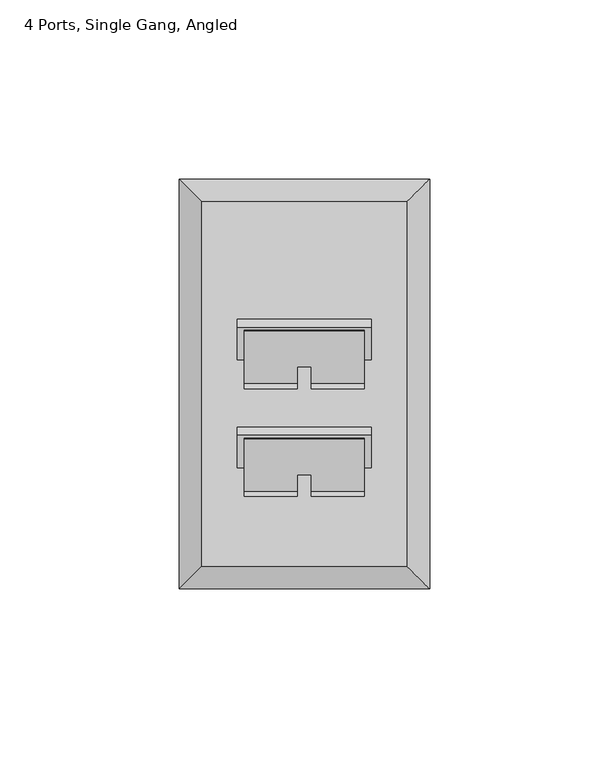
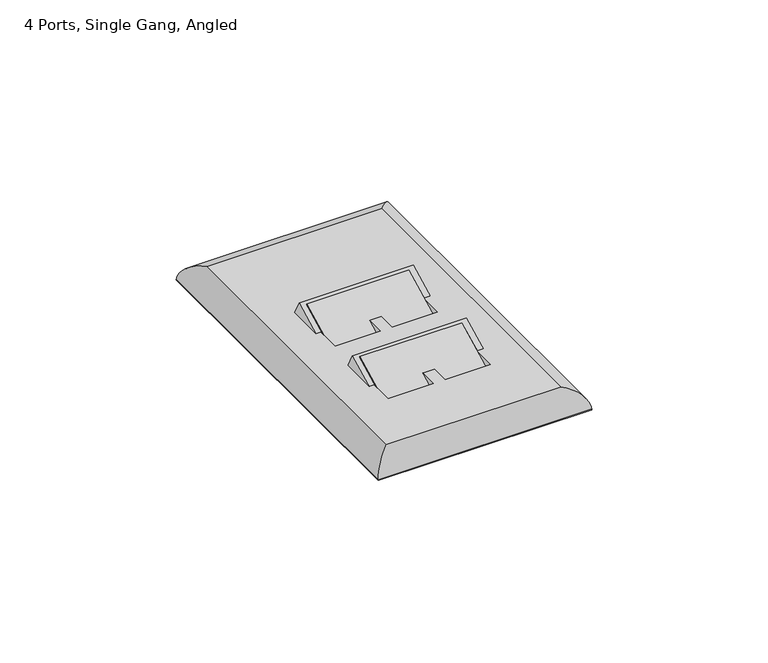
"""IFC4 building model written with IfcOpenShell, lengths in millimetres: electric appliance geometry, Data_Device-Work_Area-Leviton-QuickPort-Wallplate : 4 Ports, Single Gang, Angled."""

from ifc_helpers import new_model, si_unit, frame, origin, origin_with_axes, place, context, project, spatial, polyline, ellipse_curve, outline, extrude, faceted_brep, source, transform, mapped, element, save
from ifc_brep_helpers import plane_surface, cylinder_surface, advanced_brep


def electric_appliance_4_ports_single_gang_angled_b37532bb(model_context):
    return source(origin(), model_context, "Body", "SolidModel", [
        extrude(outline(polyline([(0.0, -16.51), (0.0, 0.0), (33.401, 0.0), (33.401, -16.51), (0.0, -16.51)])), frame((-6.3246, -18.8557048, -2.12579), z_axis=(0.0, -0.4558553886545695, 0.8900538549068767), x_axis=(-1.0, 0.0, 0.0)), (0.0, 0.0, 1.0), 6.35),
        extrude(outline(polyline([(0.0, -16.51), (0.0, 0.0), (33.401, 0.0), (33.401, -16.51), (0.0, -16.51)])), frame((-6.3246, 11.2505157, -2.12579), z_axis=(0.0, -0.4558553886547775, 0.8900538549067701), x_axis=(-1.0, 0.0, 0.0)), (0.0, 0.0, 1.0), 6.35),
        advanced_brep(
        [(5.5499, -42.6085, 6.35), (5.5499, 58.9915, 6.35), (-51.6001, 58.9915, 6.35), (-51.6001, -42.6085, 6.35), (-6.3246, -4.6472775, 6.35), (-6.3246, -23.1967169, 6.35), (-21.0566, -23.1967169, 6.35), (-21.0566, -4.6472775, 6.35), (-24.9936, -4.6472775, 6.35), (-24.9936, -23.1967169, 6.35), (-39.7256, -23.1967169, 6.35), (-39.7256, -4.6472775, 6.35), (-6.3246, 25.458943, 6.35), (-6.3246, 6.9095036, 6.35), (-21.0566, 6.9095036, 6.35), (-21.0566, 25.458943, 6.35), (-24.9936, 25.458943, 6.35), (-24.9936, 6.9095036, 6.35), (-39.7256, 6.9095036, 6.35), (-39.7256, 25.458943, 6.35), (11.8999, 65.3415, 0.0), (11.8999, -48.9585, 0.0), (-57.9501, -48.9585, 0.0), (-57.9501, 65.3415, 0.0), (-6.3246, -19.9444623, 0.0), (-6.3246, -1.3950229, 0.0), (-21.0566, -1.3950229, 0.0), (-21.0566, -19.9444623, 0.0), (-24.9936, -19.9444623, 0.0), (-24.9936, -1.3950229, 0.0), (-39.7256, -1.3950229, 0.0), (-39.7256, -19.9444623, 0.0), (-6.3246, 10.1617582, 0.0), (-6.3246, 28.7111975, 0.0), (-21.0566, 28.7111975, 0.0), (-21.0566, 10.1617582, 0.0), (-24.9936, 10.1617582, 0.0), (-24.9936, 28.7111975, 0.0), (-39.7256, 28.7111975, 0.0), (-39.7256, 10.1617582, 0.0), (-57.9501, 65.3415, 0.254), (11.8999, 65.3415, 0.254), (-57.9501, -48.9585, 0.254), (11.8999, -48.9585, 0.254)],
        [
            (0, 1),
            (1, 2),
            (2, 3),
            (3, 0),
            (4, 5),
            (5, 6),
            (6, 7),
            (7, 4),
            (8, 9),
            (9, 10),
            (10, 11),
            (11, 8),
            (12, 13),
            (13, 14),
            (14, 15),
            (15, 12),
            (16, 17),
            (17, 18),
            (18, 19),
            (19, 16),
            (20, 21),
            (21, 22),
            (22, 23),
            (23, 20),
            (24, 25),
            (25, 26),
            (26, 27),
            (27, 24),
            (28, 29),
            (29, 30),
            (30, 31),
            (31, 28),
            (32, 33),
            (33, 34),
            (34, 35),
            (35, 32),
            (36, 37),
            (37, 38),
            (38, 39),
            (39, 36),
            (23, 40),
            (40, 41),
            (41, 20),
            (22, 42),
            (42, 40),
            (21, 43),
            (43, 42),
            (41, 43),
            (4, 25),
            (24, 5),
            (27, 6),
            (26, 7),
            (8, 29),
            (28, 9),
            (31, 10),
            (30, 11),
            (12, 33),
            (32, 13),
            (35, 14),
            (34, 15),
            (16, 37),
            (36, 17),
            (39, 18),
            (38, 19),
            (0, 43, ellipse_curve(frame((5.5499, -42.6085, -0.0052917), z_axis=(0.7071067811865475, 0.7071067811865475, 0.0), x_axis=(0.7071067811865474, -0.7071067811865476, 0.0)), 8.9877397, 6.3552917)),
            (41, 1, ellipse_curve(frame((5.5499, 58.9915, -0.0052917), z_axis=(0.7071067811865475, -0.7071067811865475, 0.0), x_axis=(-0.7071067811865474, -0.7071067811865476, 0.0)), 8.9877397, 6.3552917)),
            (3, 42, ellipse_curve(frame((-51.6001, -42.6085, -0.0052917), z_axis=(0.7071067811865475, -0.7071067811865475, 0.0), x_axis=(-0.7071067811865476, -0.7071067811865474, 0.0)), 8.9877397, 6.3552917)),
            (2, 40, ellipse_curve(frame((-51.6001, 58.9915, -0.0052917), z_axis=(-0.7071067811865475, -0.7071067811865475, 0.0), x_axis=(-0.7071067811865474, 0.7071067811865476, 0.0)), 8.9877397, 6.3552917)),
        ],
        [
            plane_surface(frame((-57.9501, 65.3415, 6.35), z_axis=(0.0, 0.0, 1.0), x_axis=(-1.0, 0.0, 0.0))),
            plane_surface(frame((-57.9501, 65.3415, 0.0), z_axis=(0.0, 0.0, -1.0), x_axis=(1.0, 0.0, 0.0))),
            plane_surface(frame((11.8999, 65.3415, 6.35), z_axis=(0.0, 1.0, 0.0), x_axis=(0.0, 0.0, -1.0))),
            plane_surface(frame((-57.9501, 65.3415, 6.35), z_axis=(-1.0, 0.0, 0.0), x_axis=(0.0, 0.0, -1.0))),
            plane_surface(frame((-57.9501, -48.9585, 6.35), z_axis=(0.0, -1.0, 0.0), x_axis=(0.0, 0.0, -1.0))),
            plane_surface(frame((11.8999, -48.9585, 6.35), z_axis=(1.0, 0.0, 0.0), x_axis=(0.0, 0.0, -1.0))),
            plane_surface(frame((-6.3246, -0.1083612, -2.5121963), z_axis=(-1.0, 0.0, 0.0), x_axis=(0.0, -0.45585538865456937, 0.8900538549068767))),
            plane_surface(frame((-6.3246, -14.8031504, -10.0383688), z_axis=(0.0, 0.8900538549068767, 0.4558553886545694), x_axis=(0.0, -0.4558553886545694, 0.8900538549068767))),
            plane_surface(frame((-21.0566, -14.8031504, -10.0383688), z_axis=(1.0, 0.0, 0.0), x_axis=(0.0, -0.4558553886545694, 0.8900538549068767))),
            plane_surface(frame((-21.0566, -0.1083612, -2.5121963), z_axis=(0.0, -0.8900538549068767, -0.45585538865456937), x_axis=(0.0, -0.45585538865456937, 0.8900538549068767))),
            plane_surface(frame((-24.9936, -0.1083612, -2.5121963), z_axis=(-1.0, 0.0, 0.0), x_axis=(0.0, -0.45585538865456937, 0.8900538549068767))),
            plane_surface(frame((-24.9936, -14.8031504, -10.0383688), z_axis=(0.0, 0.8900538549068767, 0.4558553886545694), x_axis=(0.0, -0.4558553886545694, 0.8900538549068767))),
            plane_surface(frame((-39.7256, -14.8031504, -10.0383688), z_axis=(1.0, 0.0, 0.0), x_axis=(0.0, -0.4558553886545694, 0.8900538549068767))),
            plane_surface(frame((-39.7256, -0.1083612, -2.5121963), z_axis=(0.0, -0.8900538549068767, -0.45585538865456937), x_axis=(0.0, -0.45585538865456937, 0.8900538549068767))),
            plane_surface(frame((-6.3246, 29.9978593, -2.5121963), z_axis=(-1.0, 0.0, 0.0), x_axis=(0.0, -0.45585538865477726, 0.8900538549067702))),
            plane_surface(frame((-6.3246, 15.3030701, -10.0383688), z_axis=(0.0, 0.8900538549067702, 0.45585538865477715), x_axis=(0.0, -0.45585538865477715, 0.8900538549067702))),
            plane_surface(frame((-21.0566, 15.3030701, -10.0383688), z_axis=(1.0, 0.0, 0.0), x_axis=(0.0, -0.45585538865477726, 0.8900538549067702))),
            plane_surface(frame((-21.0566, 29.9978593, -2.5121963), z_axis=(0.0, -0.8900538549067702, -0.45585538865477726), x_axis=(0.0, -0.45585538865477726, 0.8900538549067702))),
            plane_surface(frame((-24.9936, 29.9978593, -2.5121963), z_axis=(-1.0, 0.0, 0.0), x_axis=(0.0, -0.45585538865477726, 0.8900538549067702))),
            plane_surface(frame((-24.9936, 15.3030701, -10.0383688), z_axis=(0.0, 0.8900538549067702, 0.45585538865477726), x_axis=(0.0, -0.45585538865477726, 0.8900538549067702))),
            plane_surface(frame((-39.7256, 15.3030701, -10.0383688), z_axis=(1.0, 0.0, 0.0), x_axis=(0.0, -0.45585538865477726, 0.8900538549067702))),
            plane_surface(frame((-39.7256, 29.9978593, -2.5121963), z_axis=(0.0, -0.8900538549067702, -0.45585538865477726), x_axis=(0.0, -0.45585538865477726, 0.8900538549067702))),
            cylinder_surface(frame((5.5499, 65.3415, -0.0052917), z_axis=(0.0, -1.0, 0.0), x_axis=(1.0, 0.0, 0.0)), 6.3552917),
            cylinder_surface(frame((11.8999, -42.6085, -0.0052917), z_axis=(-1.0, 0.0, 0.0), x_axis=(0.0, -1.0, 0.0)), 6.3552917),
            cylinder_surface(frame((-51.6001, -48.9585, -0.0052917), z_axis=(0.0, 1.0, 0.0), x_axis=(-1.0, 0.0, 0.0)), 6.3552917),
            cylinder_surface(frame((-57.9501, 58.9915, -0.0052917), z_axis=(1.0, 0.0, 0.0), x_axis=(0.0, 1.0, 0.0)), 6.3552917),
        ],
        [
            (0, [[1, 2, 3, 4], [5, 6, 7, 8], [9, 10, 11, 12], [13, 14, 15, 16], [17, 18, 19, 20]]),
            (1, [[21, 22, 23, 24], [25, 26, 27, 28], [29, 30, 31, 32], [33, 34, 35, 36], [37, 38, 39, 40]]),
            (2, [[-24, 41, 42, 43]]),
            (3, [[-23, 44, 45, -41]]),
            (4, [[-22, 46, 47, -44]]),
            (5, [[-21, -43, 48, -46]]),
            (6, [[49, -25, 50, -5]]),
            (7, [[-50, -28, 51, -6]]),
            (8, [[-51, -27, 52, -7]]),
            (9, [[-49, -8, -52, -26]]),
            (10, [[53, -29, 54, -9]]),
            (11, [[-54, -32, 55, -10]]),
            (12, [[-55, -31, 56, -11]]),
            (13, [[-53, -12, -56, -30]]),
            (14, [[57, -33, 58, -13]]),
            (15, [[-58, -36, 59, -14]]),
            (16, [[-59, -35, 60, -15]]),
            (17, [[-57, -16, -60, -34]]),
            (18, [[61, -37, 62, -17]]),
            (19, [[-62, -40, 63, -18]]),
            (20, [[-63, -39, 64, -19]]),
            (21, [[-61, -20, -64, -38]]),
            (22, [[65, -48, 66, -1]]),
            (23, [[-65, -4, 67, -47]]),
            (24, [[-67, -3, 68, -45]]),
            (25, [[-66, -42, -68, -2]]),
        ],
    ),
        faceted_brep([(-4.3561, 13.8695691, 6.35), (-4.3561, 26.5914963, 6.35), (-4.3561, 23.9478272, 11.5117419), (-41.6941, 13.8695691, 6.35), (-41.6941, 23.9478272, 11.5117419), (-41.6941, 26.5914963, 6.35), (-6.3246, 23.0506231, 11.0522244), (-6.3246, 25.458943, 6.35), (-6.3246, 13.8695691, 6.35), (-21.0566, 25.458943, 6.35), (-21.0566, 23.0506231, 11.0522244), (-21.0566, 13.8695691, 6.35), (-24.9936, 23.0506231, 11.0522244), (-24.9936, 25.458943, 6.35), (-24.9936, 13.8695691, 6.35), (-39.7256, 25.458943, 6.35), (-39.7256, 23.0506231, 11.0522244), (-39.7256, 13.8695691, 6.35)], [[[0, 1, 2]], [[3, 4, 5]], [[6, 7, 8]], [[9, 10, 11]], [[7, 6, 10, 9]], [[12, 13, 14]], [[15, 16, 17]], [[13, 12, 16, 15]], [[0, 2, 4, 3, 17, 16, 12, 14, 11, 10, 6, 8]], [[1, 0, 8, 7, 9, 11, 14, 13, 15, 17, 3, 5]], [[2, 1, 5, 4]]]),
        faceted_brep([(-4.3561, -16.2366514, 6.35), (-4.3561, -3.5147242, 6.35), (-4.3561, -6.1583933, 11.5117419), (-41.6941, -16.2366514, 6.35), (-41.6941, -6.1583933, 11.5117419), (-41.6941, -3.5147242, 6.35), (-6.3246, -7.0555973, 11.0522244), (-6.3246, -4.6472775, 6.35), (-6.3246, -16.2366514, 6.35), (-21.0566, -4.6472775, 6.35), (-21.0566, -7.0555973, 11.0522244), (-21.0566, -16.2366514, 6.35), (-24.9936, -7.0555973, 11.0522244), (-24.9936, -4.6472775, 6.35), (-24.9936, -16.2366514, 6.35), (-39.7256, -4.6472775, 6.35), (-39.7256, -7.0555973, 11.0522244), (-39.7256, -16.2366514, 6.35)], [[[0, 1, 2]], [[3, 4, 5]], [[6, 7, 8]], [[9, 10, 11]], [[7, 6, 10, 9]], [[12, 13, 14]], [[15, 16, 17]], [[13, 12, 16, 15]], [[0, 2, 4, 3, 17, 16, 12, 14, 11, 10, 6, 8]], [[1, 0, 8, 7, 9, 11, 14, 13, 15, 17, 3, 5]], [[2, 1, 5, 4]]]),
        extrude(outline(polyline([(11.6459, 65.0875), (11.6459, -48.7045), (-57.6961, -48.7045), (-57.6961, 65.0875), (11.6459, 65.0875)])), origin_with_axes(), (0.0, 0.0, 1.0), 0.254),
    ])


if __name__ == "__main__":
    model = new_model("IFC4")
    model_context = context("Model", 3, world=origin())
    ifc_project = project(units=[si_unit("LENGTHUNIT", "METRE", prefix="MILLI")], contexts=[model_context])
    site = spatial("IfcSite", under=ifc_project)
    building = spatial("IfcBuilding", under=site)
    placement = place(None, origin())
    electric_appliance_4_ports_single_gang_angled_shape = electric_appliance_4_ports_single_gang_angled_b37532bb(model_context)
    element("IfcElectricAppliance", 1, ObjectType="Data_Device-Work_Area-Leviton-QuickPort-Wallplate : 4 Ports, Single Gang, Angled", at=placement, inside=building, context=model_context, shape_type="MappedRepresentation", body=[
        mapped(electric_appliance_4_ports_single_gang_angled_shape, transform((0.0, 0.0, 0.0), x_axis=(1.0, 0.0, 0.0), y_axis=(0.0, 1.0, 0.0), z_axis=(0.0, 0.0, 1.0))),
    ])
    save(model, "model.ifc")
